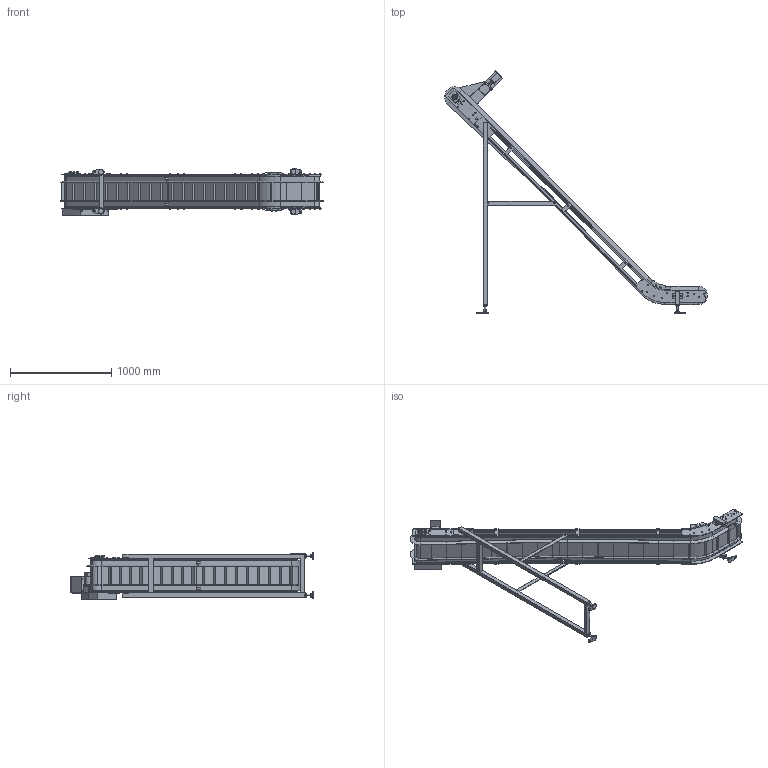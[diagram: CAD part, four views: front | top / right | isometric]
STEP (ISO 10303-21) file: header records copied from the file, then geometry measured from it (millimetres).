
FILE_DESCRIPTION( (''), '2;1');
FILE_NAME ('SMMX2-B-309-300-200-45°-K-180-O.stp','2025-02-17T14:55:48',(''),(''),'spGate 20.6.2 (****-****-****-****)','','');
FILE_SCHEMA (('AUTOMOTIVE_DESIGN'));
Length unit declared in the file: millimetre
Products named in the file (60): NewModel; TEMP_X_T-prt0; TEMP_X_T-prt1; TEMP_X_T-prt2; TEMP_X_T-prt3; TEMP_X_T-prt4; TEMP_X_T-prt5; TEMP_X_T-prt6; TEMP_X_T-prt7; TEMP_X_T-prt8; TEMP_X_T-prt9; TEMP_X_T-prt10; TEMP_X_T-prt11; TEMP_X_T-prt12; TEMP_X_T-prt13; TEMP_X_T-prt14; TEMP_X_T-prt15; TEMP_X_T-prt16; TEMP_X_T-prt17; TEMP_X_T-prt18; TEMP_X_T-prt19; TEMP_X_T-prt20; TEMP_X_T-prt21; TEMP_X_T-prt22; TEMP_X_T-prt23; TEMP_X_T-prt24; TEMP_X_T-prt25; TEMP_X_T-prt26; TEMP_X_T-prt27; TEMP_X_T-prt28; TEMP_X_T-prt29; TEMP_X_T-prt30; TEMP_X_T-prt31; TEMP_X_T-prt32; TEMP_X_T-prt33; TEMP_X_T-prt34; TEMP_X_T-prt35; TEMP_X_T-prt36; TEMP_X_T-prt37; TEMP_X_T-prt38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
Assembly tree (59 placements, depth 2):
  NewModel
    TEMP_X_T-prt0
    TEMP_X_T-prt1
    TEMP_X_T-prt2
    TEMP_X_T-prt3
    TEMP_X_T-prt4
    TEMP_X_T-prt5
    TEMP_X_T-prt6
    TEMP_X_T-prt7
    TEMP_X_T-prt8
    TEMP_X_T-prt9
    TEMP_X_T-prt10
    TEMP_X_T-prt11
    TEMP_X_T-prt12
    TEMP_X_T-prt13
    TEMP_X_T-prt14
    TEMP_X_T-prt15
    TEMP_X_T-prt16
    TEMP_X_T-prt17
    TEMP_X_T-prt18
    TEMP_X_T-prt19
    TEMP_X_T-prt20
    TEMP_X_T-prt21
    TEMP_X_T-prt22
    TEMP_X_T-prt23
    TEMP_X_T-prt24
    TEMP_X_T-prt25
    TEMP_X_T-prt26
    TEMP_X_T-prt27
    TEMP_X_T-prt28
    TEMP_X_T-prt29
    TEMP_X_T-prt30
    TEMP_X_T-prt31
    TEMP_X_T-prt32
    TEMP_X_T-prt33
    TEMP_X_T-prt34
    TEMP_X_T-prt35
    TEMP_X_T-prt36
    TEMP_X_T-prt37
    TEMP_X_T-prt38
    TEMP_X_T-prt39
    TEMP_X_T-prt40
    TEMP_X_T-prt41
    TEMP_X_T-prt42
    TEMP_X_T-prt43
    TEMP_X_T-prt44
    TEMP_X_T-prt45
    TEMP_X_T-prt46
    TEMP_X_T-prt47
    TEMP_X_T-prt48
    TEMP_X_T-prt49
    TEMP_X_T-prt50
    TEMP_X_T-prt51
    TEMP_X_T-prt52
    TEMP_X_T-prt53
    TEMP_X_T-prt54
    TEMP_X_T-prt55
    TEMP_X_T-prt56
    TEMP_X_T-prt57
    TEMP_X_T-prt58
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Bounding box: 2602.93 x 2396.06 x 464.5 mm (x, y, z)
Volume: 33357609.3 mm3; surface area: 11733601.7 mm2
Topology: 59 solids, 59 shells, 2889 faces, 6955 edges, 4457 vertices
Faces by surface type: plane 2098, cylinder 597, bspline 194
Entity records: 144355 total; most frequent: CARTESIAN_POINT 18873, ORIENTED_EDGE 13886, DIRECTION 13370, COLOUR_RGB 9891, PRESENTATION_STYLE_ASSIGNMENT 9891, STYLED_ITEM 9891, EDGE_CURVE 6943, DRAUGHTING_PRE_DEFINED_CURVE_FONT 6943
